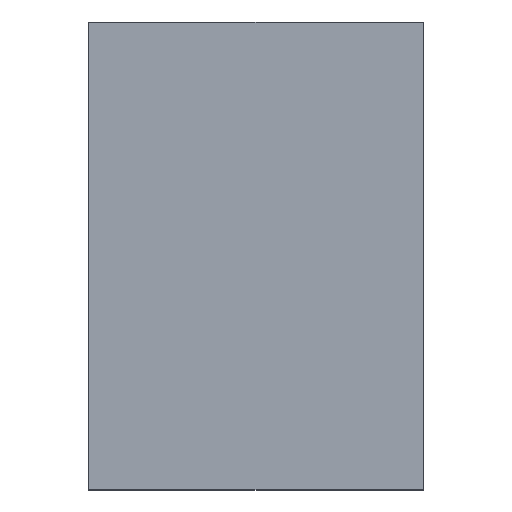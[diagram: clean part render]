
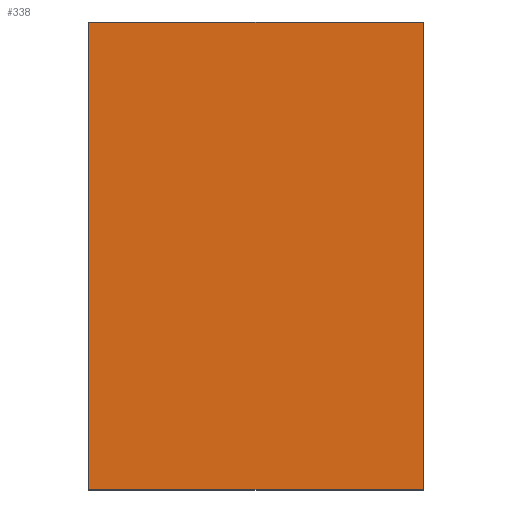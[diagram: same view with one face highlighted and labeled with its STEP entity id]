
A CAD part, top view. The second image highlights one B-rep face of the part: STEP entity #338.
In plain terms, the highlighted planar face has unit normal (0, 0, 1).
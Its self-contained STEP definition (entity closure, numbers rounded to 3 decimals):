
#24 = VERTEX_POINT('',#25);
#25 = CARTESIAN_POINT('',(-51.5,20.2,17.3));
#32 = PLANE('',#33);
#33 = AXIS2_PLACEMENT_3D('',#34,#35,#36);
#34 = CARTESIAN_POINT('',(-51.5,20.2,15.7));
#35 = DIRECTION('',(1.,0.,0.));
#36 = DIRECTION('',(0.,0.,1.));
#44 = PLANE('',#45);
#45 = AXIS2_PLACEMENT_3D('',#46,#47,#48);
#46 = CARTESIAN_POINT('',(-51.5,20.2,15.7));
#47 = DIRECTION('',(0.,1.,0.));
#48 = DIRECTION('',(0.,0.,1.));
#85 = VERTEX_POINT('',#86);
#86 = CARTESIAN_POINT('',(-51.5,48.2,17.3));
#100 = PLANE('',#101);
#101 = AXIS2_PLACEMENT_3D('',#102,#103,#104);
#102 = CARTESIAN_POINT('',(-51.5,48.2,15.7));
#103 = DIRECTION('',(0.,1.,0.));
#104 = DIRECTION('',(0.,0.,1.));
#112 = EDGE_CURVE('',#24,#85,#113,.T.);
#113 = SURFACE_CURVE('',#114,(#118,#125),.PCURVE_S1.);
#114 = LINE('',#115,#116);
#115 = CARTESIAN_POINT('',(-51.5,20.2,17.3));
#116 = VECTOR('',#117,1.);
#117 = DIRECTION('',(0.,1.,0.));
#118 = PCURVE('',#32,#119);
#119 = DEFINITIONAL_REPRESENTATION('',(#120),#124);
#120 = LINE('',#121,#122);
#121 = CARTESIAN_POINT('',(1.6,0.));
#122 = VECTOR('',#123,1.);
#123 = DIRECTION('',(0.,-1.));
#124 = ( GEOMETRIC_REPRESENTATION_CONTEXT(2) 
PARAMETRIC_REPRESENTATION_CONTEXT() REPRESENTATION_CONTEXT('2D SPACE',''
  ) );
#125 = PCURVE('',#126,#131);
#126 = PLANE('',#127);
#127 = AXIS2_PLACEMENT_3D('',#128,#129,#130);
#128 = CARTESIAN_POINT('',(-51.5,20.2,17.3));
#129 = DIRECTION('',(0.,0.,1.));
#130 = DIRECTION('',(1.,0.,0.));
#131 = DEFINITIONAL_REPRESENTATION('',(#132),#136);
#132 = LINE('',#133,#134);
#133 = CARTESIAN_POINT('',(0.,0.));
#134 = VECTOR('',#135,1.);
#135 = DIRECTION('',(0.,1.));
#136 = ( GEOMETRIC_REPRESENTATION_CONTEXT(2) 
PARAMETRIC_REPRESENTATION_CONTEXT() REPRESENTATION_CONTEXT('2D SPACE',''
  ) );
#144 = VERTEX_POINT('',#145);
#145 = CARTESIAN_POINT('',(-31.5,20.2,17.3));
#152 = PLANE('',#153);
#153 = AXIS2_PLACEMENT_3D('',#154,#155,#156);
#154 = CARTESIAN_POINT('',(-31.5,20.2,15.7));
#155 = DIRECTION('',(1.,0.,0.));
#156 = DIRECTION('',(0.,0.,1.));
#195 = VERTEX_POINT('',#196);
#196 = CARTESIAN_POINT('',(-31.5,48.2,17.3));
#217 = EDGE_CURVE('',#144,#195,#218,.T.);
#218 = SURFACE_CURVE('',#219,(#223,#230),.PCURVE_S1.);
#219 = LINE('',#220,#221);
#220 = CARTESIAN_POINT('',(-31.5,20.2,17.3));
#221 = VECTOR('',#222,1.);
#222 = DIRECTION('',(0.,1.,0.));
#223 = PCURVE('',#152,#224);
#224 = DEFINITIONAL_REPRESENTATION('',(#225),#229);
#225 = LINE('',#226,#227);
#226 = CARTESIAN_POINT('',(1.6,0.));
#227 = VECTOR('',#228,1.);
#228 = DIRECTION('',(0.,-1.));
#229 = ( GEOMETRIC_REPRESENTATION_CONTEXT(2) 
PARAMETRIC_REPRESENTATION_CONTEXT() REPRESENTATION_CONTEXT('2D SPACE',''
  ) );
#230 = PCURVE('',#126,#231);
#231 = DEFINITIONAL_REPRESENTATION('',(#232),#236);
#232 = LINE('',#233,#234);
#233 = CARTESIAN_POINT('',(20.,0.));
#234 = VECTOR('',#235,1.);
#235 = DIRECTION('',(0.,1.));
#236 = ( GEOMETRIC_REPRESENTATION_CONTEXT(2) 
PARAMETRIC_REPRESENTATION_CONTEXT() REPRESENTATION_CONTEXT('2D SPACE',''
  ) );
#263 = EDGE_CURVE('',#24,#144,#264,.T.);
#264 = SURFACE_CURVE('',#265,(#269,#276),.PCURVE_S1.);
#265 = LINE('',#266,#267);
#266 = CARTESIAN_POINT('',(-51.5,20.2,17.3));
#267 = VECTOR('',#268,1.);
#268 = DIRECTION('',(1.,0.,0.));
#269 = PCURVE('',#44,#270);
#270 = DEFINITIONAL_REPRESENTATION('',(#271),#275);
#271 = LINE('',#272,#273);
#272 = CARTESIAN_POINT('',(1.6,0.));
#273 = VECTOR('',#274,1.);
#274 = DIRECTION('',(0.,1.));
#275 = ( GEOMETRIC_REPRESENTATION_CONTEXT(2) 
PARAMETRIC_REPRESENTATION_CONTEXT() REPRESENTATION_CONTEXT('2D SPACE',''
  ) );
#276 = PCURVE('',#126,#277);
#277 = DEFINITIONAL_REPRESENTATION('',(#278),#282);
#278 = LINE('',#279,#280);
#279 = CARTESIAN_POINT('',(0.,0.));
#280 = VECTOR('',#281,1.);
#281 = DIRECTION('',(1.,0.));
#282 = ( GEOMETRIC_REPRESENTATION_CONTEXT(2) 
PARAMETRIC_REPRESENTATION_CONTEXT() REPRESENTATION_CONTEXT('2D SPACE',''
  ) );
#310 = EDGE_CURVE('',#85,#195,#311,.T.);
#311 = SURFACE_CURVE('',#312,(#316,#323),.PCURVE_S1.);
#312 = LINE('',#313,#314);
#313 = CARTESIAN_POINT('',(-51.5,48.2,17.3));
#314 = VECTOR('',#315,1.);
#315 = DIRECTION('',(1.,0.,0.));
#316 = PCURVE('',#100,#317);
#317 = DEFINITIONAL_REPRESENTATION('',(#318),#322);
#318 = LINE('',#319,#320);
#319 = CARTESIAN_POINT('',(1.6,0.));
#320 = VECTOR('',#321,1.);
#321 = DIRECTION('',(0.,1.));
#322 = ( GEOMETRIC_REPRESENTATION_CONTEXT(2) 
PARAMETRIC_REPRESENTATION_CONTEXT() REPRESENTATION_CONTEXT('2D SPACE',''
  ) );
#323 = PCURVE('',#126,#324);
#324 = DEFINITIONAL_REPRESENTATION('',(#325),#329);
#325 = LINE('',#326,#327);
#326 = CARTESIAN_POINT('',(0.,28.));
#327 = VECTOR('',#328,1.);
#328 = DIRECTION('',(1.,0.));
#329 = ( GEOMETRIC_REPRESENTATION_CONTEXT(2) 
PARAMETRIC_REPRESENTATION_CONTEXT() REPRESENTATION_CONTEXT('2D SPACE',''
  ) );
#338 = ADVANCED_FACE('',(#339),#126,.T.);
#339 = FACE_BOUND('',#340,.T.);
#340 = EDGE_LOOP('',(#341,#342,#343,#344));
#341 = ORIENTED_EDGE('',*,*,#112,.F.);
#342 = ORIENTED_EDGE('',*,*,#263,.T.);
#343 = ORIENTED_EDGE('',*,*,#217,.T.);
#344 = ORIENTED_EDGE('',*,*,#310,.F.);
